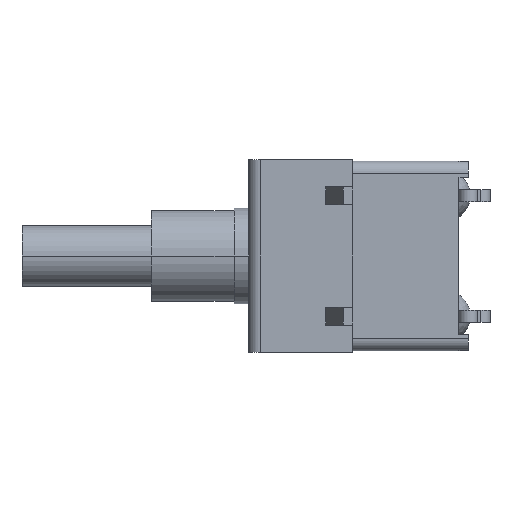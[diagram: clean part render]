
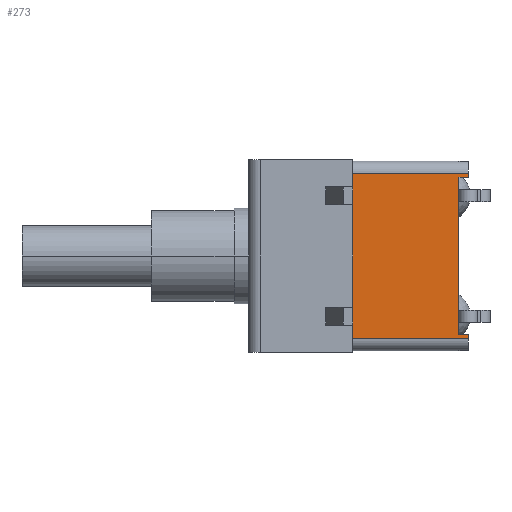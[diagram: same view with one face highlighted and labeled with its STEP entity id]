
A CAD part, left-side view. The second image highlights one B-rep face of the part: STEP entity #273.
In plain terms, the highlighted planar face has unit normal (-1, 0, 0).
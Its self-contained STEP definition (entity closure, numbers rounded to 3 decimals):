
#273=ADVANCED_FACE('',(#549),#550,.T.);
#549=FACE_OUTER_BOUND('',#818,.T.);
#550=PLANE('',#819);
#818=EDGE_LOOP('',(#1592,#1593,#1594,#1595,#1596,#1597,#1598,#1599));
#819=AXIS2_PLACEMENT_3D('',#1600,#1601,#1602);
#1592=ORIENTED_EDGE('',*,*,#1747,.T.);
#1593=ORIENTED_EDGE('',*,*,#1921,.F.);
#1594=ORIENTED_EDGE('',*,*,#1906,.T.);
#1595=ORIENTED_EDGE('',*,*,#1891,.T.);
#1596=ORIENTED_EDGE('',*,*,#1689,.T.);
#1597=ORIENTED_EDGE('',*,*,#1887,.T.);
#1598=ORIENTED_EDGE('',*,*,#1912,.T.);
#1599=ORIENTED_EDGE('',*,*,#1923,.T.);
#1600=CARTESIAN_POINT('',(-2.03,0.,0.0));
#1601=DIRECTION('',(-1.0,0.0,0.0));
#1602=DIRECTION('',(0.0,0.0,1.0));
#1689=EDGE_CURVE('',#2043,#2041,#2044,.T.);
#1747=EDGE_CURVE('',#2136,#2134,#2137,.T.);
#1887=EDGE_CURVE('',#2041,#2341,#2342,.T.);
#1891=EDGE_CURVE('',#2347,#2043,#2348,.T.);
#1906=EDGE_CURVE('',#2367,#2347,#2368,.T.);
#1912=EDGE_CURVE('',#2341,#2375,#2377,.T.);
#1921=EDGE_CURVE('',#2367,#2134,#2386,.T.);
#1923=EDGE_CURVE('',#2375,#2136,#2388,.T.);
#2041=VERTEX_POINT('',#2588);
#2043=VERTEX_POINT('',#2591);
#2044=LINE('',#2592,#2593);
#2134=VERTEX_POINT('',#2878);
#2136=VERTEX_POINT('',#2880);
#2137=LINE('',#2881,#2882);
#2341=VERTEX_POINT('',#3175);
#2342=LINE('',#3176,#3177);
#2347=VERTEX_POINT('',#3184);
#2348=LINE('',#3185,#3186);
#2367=VERTEX_POINT('',#3213);
#2368=LINE('',#3214,#3215);
#2375=VERTEX_POINT('',#3224);
#2377=LINE('',#3226,#3227);
#2386=LINE('',#3240,#3241);
#2388=LINE('',#3243,#3244);
#2588=CARTESIAN_POINT('',(-2.03,0.4,3.32));
#2591=CARTESIAN_POINT('',(-2.03,0.4,-3.32));
#2592=CARTESIAN_POINT('',(-2.03,0.4,0.0));
#2593=VECTOR('',#3336,1.0);
#2878=CARTESIAN_POINT('',(-2.03,8.77,-3.5));
#2880=CARTESIAN_POINT('',(-2.03,8.77,3.5));
#2881=CARTESIAN_POINT('',(-2.03,8.77,-2.033));
#2882=VECTOR('',#3401,1.0);
#3175=CARTESIAN_POINT('',(-2.03,0.,3.32));
#3176=CARTESIAN_POINT('',(-2.03,-0.05,3.32));
#3177=VECTOR('',#3527,1.0);
#3184=CARTESIAN_POINT('',(-2.03,0.,-3.32));
#3185=CARTESIAN_POINT('',(-2.03,-0.05,-3.32));
#3186=VECTOR('',#3530,1.0);
#3213=CARTESIAN_POINT('',(-2.03,0.,-3.5));
#3214=CARTESIAN_POINT('',(-2.03,0.,-3.5));
#3215=VECTOR('',#3542,1.0);
#3224=CARTESIAN_POINT('',(-2.03,0.,3.5));
#3226=CARTESIAN_POINT('',(-2.03,0.,-3.5));
#3227=VECTOR('',#3551,1.0);
#3240=CARTESIAN_POINT('',(-2.03,0.,-3.5));
#3241=VECTOR('',#3556,1.0);
#3243=CARTESIAN_POINT('',(-2.03,0.,3.5));
#3244=VECTOR('',#3557,1.0);
#3336=DIRECTION('',(0.0,0.0,1.0));
#3401=DIRECTION('',(-0.0,-0.0,-1.0));
#3527=DIRECTION('',(0.0,-1.0,0.0));
#3530=DIRECTION('',(0.0,1.0,-0.0));
#3542=DIRECTION('',(0.0,0.,1.0));
#3551=DIRECTION('',(0.0,0.,1.0));
#3556=DIRECTION('',(0.0,1.0,0.));
#3557=DIRECTION('',(0.0,1.0,0.));
